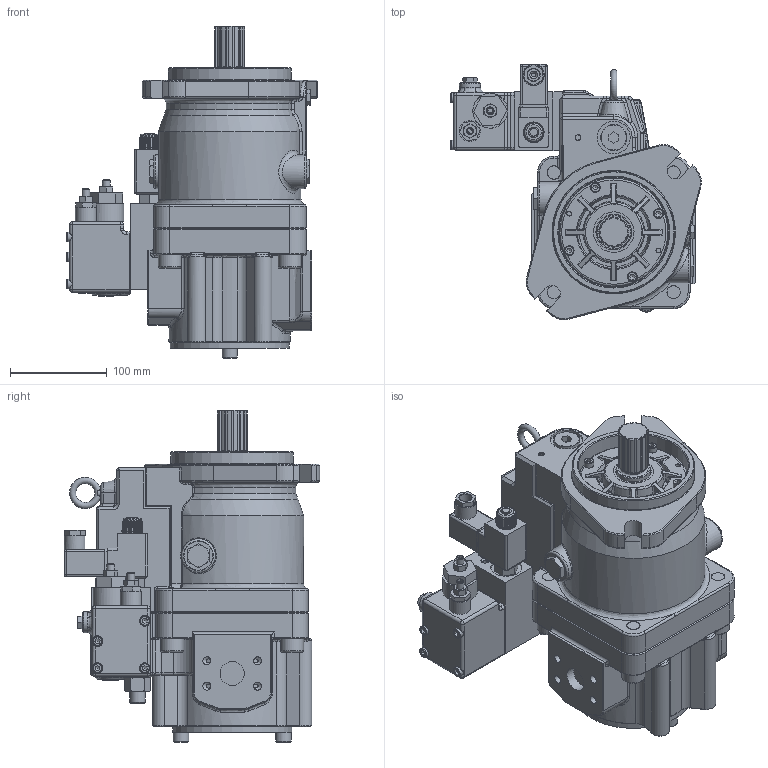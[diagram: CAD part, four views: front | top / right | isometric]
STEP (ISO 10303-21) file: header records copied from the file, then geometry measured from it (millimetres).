
FILE_DESCRIPTION((''),'2;1');
FILE_NAME('J:\Inventor\K3V, M2X\MODEL LIBRARY\K3VL80B 1NRSS PN24D.stp','2008-04-07T08:36:14',('mnorman'),(''),'Autodesk Inventor 2008','Autodesk Inventor 2008','');
FILE_SCHEMA(('AUTOMOTIVE_DESIGN { 1 0 10303 214 1 1 1 1 }'));
Length unit declared in the file: millimetre
Products named in the file (1): Part3
Bounding box: 259.73 x 264.73 x 344 mm (x, y, z)
Volume: 6906042.8 mm3; surface area: 474230.2 mm2
Topology: 18 solids, 31 shells, 1773 faces, 4316 edges, 2628 vertices
Faces by surface type: plane 701, cylinder 383, bspline 377, cone 224, torus 72, sphere 16
Full cylindrical faces by diameter (mm): 4 x1, 6 x9, 6.5 x4, 6.6 x8, 8 x6, 10 x10, 11 x7, 11.63 x1, 12.489 x2, 12.7 x1, 16 x10, 21 x1, 22 x3, 24 x4, 25 x1, 26.5 x1, 27 x1, 30 x2, 32 x1, 34 x1, 35 x2, 36 x1, 37 x2, 39 x1, 42 x1, 50 x2, 55 x1, 112 x1, 114 x2, 123.5 x1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
Entity records: 70919 total; most frequent: CARTESIAN_POINT 32278, ORIENTED_EDGE 7838, DIRECTION 7254, EDGE_CURVE 3919, AXIS2_PLACEMENT_3D 2852, VERTEX_POINT 2508, EDGE_LOOP 2097, FACE_OUTER_BOUND 1771
